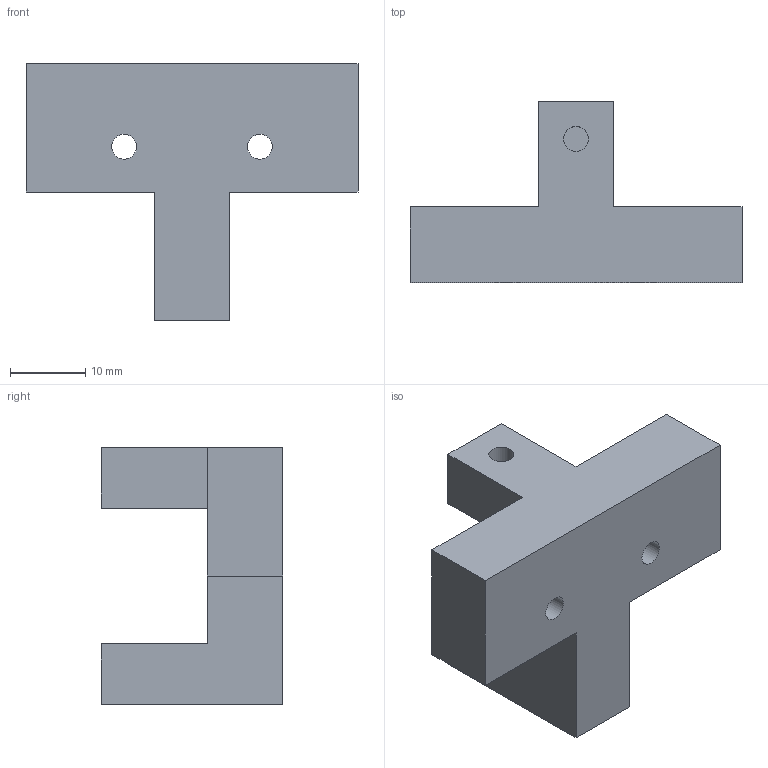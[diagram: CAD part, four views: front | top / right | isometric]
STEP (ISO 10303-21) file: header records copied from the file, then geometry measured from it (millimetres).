
FILE_DESCRIPTION(('Open CASCADE Model'),'2;1');
FILE_NAME('Open CASCADE Shape Model','2026-11-08T06:43:57',('Author'),( 'Open CASCADE'),'Open CASCADE STEP processor 7.8','Open CASCADE 7.8' ,'Unknown');
FILE_SCHEMA(('AUTOMOTIVE_DESIGN { 1 0 10303 214 1 1 1 1 }'));
Length unit declared in the file: millimetre
Products named in the file (1): Open CASCADE STEP translator 7.8 1
Bounding box: 44 x 24 x 34 mm (x, y, z)
Volume: 11180.5 mm3; surface area: 4643 mm2
Topology: 1 solids, 1 shells, 19 faces, 51 edges, 34 vertices
Faces by surface type: plane 16, cylinder 3
Full cylindrical faces by diameter (mm): 3.3 x3
Entity records: 1272 total; most frequent: CARTESIAN_POINT 211, DIRECTION 195, LINE 137, VECTOR 137, ORIENTED_EDGE 102, PCURVE 102, DEFINITIONAL_REPRESENTATION 102, EDGE_CURVE 51
